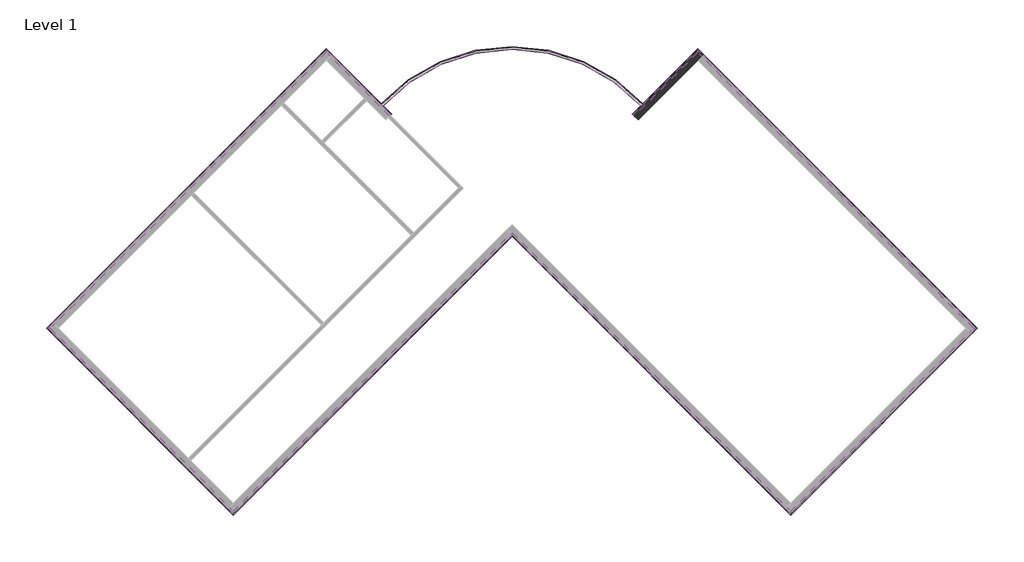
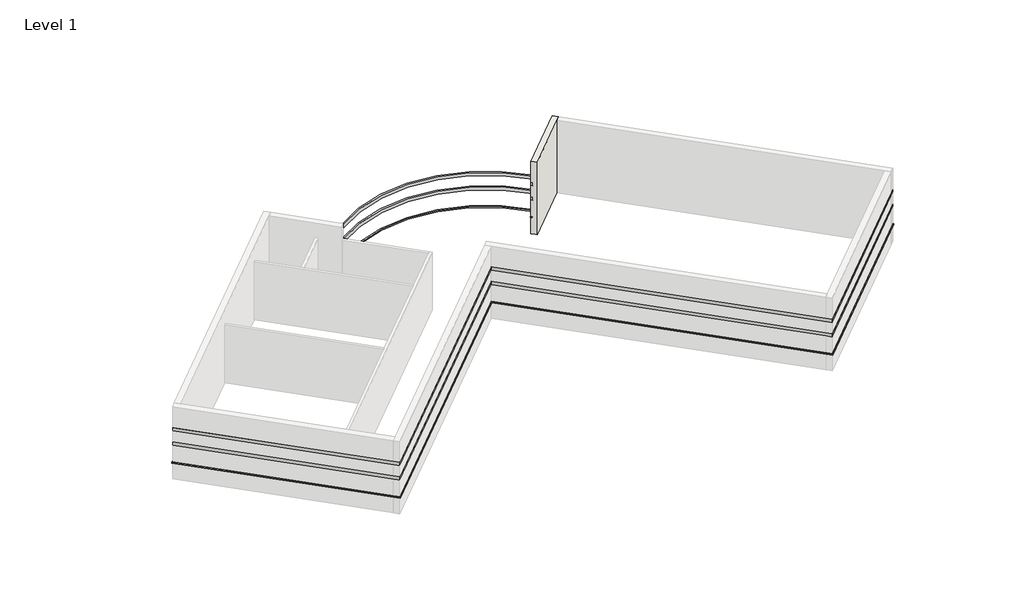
# One storey, part 2 of 2: 27 proxies, 1 wall.
"""IFC4 building model written with IfcOpenShell, lengths in millimetres."""

import ifcopenshell
import ifcopenshell.guid

model = None  # the IFC model being written
_history = None  # IfcOwnerHistory: only IFC2X3 demands one
_inside = {}  # id of a spatial element -> (the spatial element, [elements in it])
_under = {}  # id of a project, library or spatial element -> (it, [spatial elements below it])
_declared = {}  # id of a project -> (the project, [libraries it declares])
_typed = {}  # id of a type object -> (the type object, [elements of that type])
_made_of = {}  # id of a material, layer set ... -> (it, [elements and type objects made of it])


def new_model(schema):
    """Start an empty IFC model of exactly this schema.

    Asked for "IFC4X3", IfcOpenShell would pick the latest addendum, in which some entities
    have other attributes; the version numbers below select the first issue.
    IFC2X3 requires an IfcOwnerHistory on every rooted entity: one is made here for all.
    """
    global model, _history
    if schema == "IFC4X3":
        model = ifcopenshell.file(schema_version=(4, 3, 0, 0))
    else:
        model = ifcopenshell.file(schema=schema)
    _inside.clear()
    _under.clear()
    _declared.clear()
    _typed.clear()
    _made_of.clear()
    _history = None
    if model.schema == "IFC2X3":
        org = make("IfcOrganization", Name="unknown")
        user = make(
            "IfcPersonAndOrganization",
            ThePerson=make("IfcPerson", FamilyName="unknown"),
            TheOrganization=org,
        )
        app = make(
            "IfcApplication",
            ApplicationDeveloper=org,
            Version="unknown",
            ApplicationFullName="unknown",
            ApplicationIdentifier="unknown",
        )
        _history = make(
            "IfcOwnerHistory",
            OwningUser=user,
            OwningApplication=app,
            ChangeAction="ADDED",
            CreationDate=0,
        )
    return model


def make(cls, **values):
    """One entity of the class cls with the attributes given. An attribute that is None is left unset."""
    return model.create_entity(
        cls, **{name: value for name, value in values.items() if value is not None}
    )


def rooted(cls, **values):
    """An entity with a GlobalId (a new one), such as an element, a storey or a relation."""
    return make(cls, GlobalId=ifcopenshell.guid.new(), OwnerHistory=_history, **values)


def si_unit(unit_type, name, prefix=None):
    """IfcSIUnit, for example si_unit("LENGTHUNIT", "METRE", prefix="MILLI")."""
    return make("IfcSIUnit", UnitType=unit_type, Prefix=prefix, Name=name)


def assignment(units):
    """IfcUnitAssignment: the units of a project."""
    return None if units is None else make("IfcUnitAssignment", Units=units)


def point(xyz):
    """IfcCartesianPoint."""
    return None if xyz is None else make("IfcCartesianPoint", Coordinates=xyz)


def direction(xyz):
    """IfcDirection."""
    return None if xyz is None else make("IfcDirection", DirectionRatios=xyz)


def frame(location, z_axis=None, x_axis=None):
    """IfcAxis2Placement3D, a coordinate frame: its origin and axes. An axis left out is left unset."""
    return make(
        "IfcAxis2Placement3D",
        Location=point(location),
        Axis=direction(z_axis),
        RefDirection=direction(x_axis),
    )


def frame_2d(location, x_axis=None):
    """IfcAxis2Placement2D, a coordinate frame in the plane: its origin and x axis."""
    return make(
        "IfcAxis2Placement2D", Location=point(location), RefDirection=direction(x_axis)
    )


def origin():
    """The frame at (0, 0, 0) with its axes left unset."""
    return frame((0.0, 0.0, 0.0))


def place(relative_to, where):
    """IfcLocalPlacement: puts the frame where relative to a parent placement (None: the world)."""
    return make(
        "IfcLocalPlacement", PlacementRelTo=relative_to, RelativePlacement=where
    )


def context(
    kind, dimensions, precision=None, world=None, true_north=None, identifier=None
):
    """IfcGeometricRepresentationContext, for example the 3D "Model" context."""
    return make(
        "IfcGeometricRepresentationContext",
        ContextIdentifier=identifier,
        ContextType=kind,
        CoordinateSpaceDimension=dimensions,
        Precision=precision,
        WorldCoordinateSystem=world,
        TrueNorth=true_north,
    )


def project(units=None, contexts=None):
    """IfcProject with its units and contexts."""
    return rooted(
        "IfcProject",
        Name="project",
        RepresentationContexts=contexts,
        UnitsInContext=assignment(units),
    )


def spatial(cls, under=None, at=None, **own):
    """A site, building, storey or space (cls), placed at a placement, below another one or the project."""
    s = rooted(cls, ObjectPlacement=at, **own)
    if under is not None:
        _under.setdefault(under.id(), (under, []))[1].append(s)
    return s


def polyline(points):
    """IfcPolyline through the points."""
    return make("IfcPolyline", Points=[point(p) for p in points])


def circle_curve(where, radius):
    """IfcCircle in the frame where."""
    return make("IfcCircle", Position=where, Radius=radius)


def trimmed(basis, trim1, trim2, sense, master):
    """IfcTrimmedCurve: the piece of a basis curve between two trims."""
    return make(
        "IfcTrimmedCurve",
        BasisCurve=basis,
        Trim1=trim1,
        Trim2=trim2,
        SenseAgreement=sense,
        MasterRepresentation=master,
    )


def segment(curve, same_sense, transition):
    """IfcCompositeCurveSegment."""
    return make(
        "IfcCompositeCurveSegment",
        Transition=transition,
        SameSense=same_sense,
        ParentCurve=curve,
    )


def composite_curve(segments, self_intersect=None):
    """IfcCompositeCurve: segments joined end to end."""
    return make("IfcCompositeCurve", Segments=segments, SelfIntersect=self_intersect)


def outline(outer, holes=None, kind="AREA"):
    """IfcArbitraryClosedProfileDef: a profile drawn as a closed curve; with holes, ...WithVoids."""
    if holes is None:
        return make("IfcArbitraryClosedProfileDef", ProfileType=kind, OuterCurve=outer)
    return make(
        "IfcArbitraryProfileDefWithVoids",
        ProfileType=kind,
        OuterCurve=outer,
        InnerCurves=holes,
    )


def extrude(swept, where, along, depth):
    """IfcExtrudedAreaSolid: the profile swept, set in the frame where, extruded along a direction by depth."""
    return make(
        "IfcExtrudedAreaSolid",
        SweptArea=swept,
        Position=where,
        ExtrudedDirection=direction(along),
        Depth=depth,
    )


def faces_of(points, faces, orient=None, outer=None):
    """IfcFace entities. A face is a list of loops; a loop is a list of indices into points, from 0.

    orient and outer hold one flag for each loop. By default every Orientation is true, the
    first loop of a face is its IfcFaceOuterBound and the others are IfcFaceBound.
    """
    made = []
    for i, loops in enumerate(faces):
        bounds = []
        for j, loop in enumerate(loops):
            is_outer = j == 0 if outer is None else outer[i][j]
            bounds.append(
                make(
                    "IfcFaceOuterBound" if is_outer else "IfcFaceBound",
                    Bound=make("IfcPolyLoop", Polygon=[points[k] for k in loop]),
                    Orientation=True if orient is None else orient[i][j],
                )
            )
        made.append(make("IfcFace", Bounds=bounds))
    return made


def faceted_brep(points, faces, orient=None, outer=None, voids=None):
    """IfcFacetedBrep: a solid bounded by flat faces; with voids (closed shells), ...WithVoids."""
    shared = [point(p) for p in points]
    hull = make("IfcClosedShell", CfsFaces=faces_of(shared, faces, orient, outer))
    if voids is None:
        return make("IfcFacetedBrep", Outer=hull)
    return make(
        "IfcFacetedBrepWithVoids",
        Outer=hull,
        Voids=[
            make(cls, CfsFaces=faces_of(shared, fs, o, b)) for cls, fs, o, b in voids
        ],
    )


def shape(context_of_items, identifier, shape_type, items):
    """IfcShapeRepresentation: the items that make up one representation, for example the "Body"."""
    return make(
        "IfcShapeRepresentation",
        ContextOfItems=context_of_items,
        RepresentationIdentifier=identifier,
        RepresentationType=shape_type,
        Items=items,
    )


def made_of(thing, what):
    """Note that an element or type object is made of a material, layer set ...; save() writes the relation."""
    if what is not None:
        _made_of.setdefault(what.id(), (what, []))[1].append(thing)
    return thing


def element(
    cls,
    number,
    at=None,
    inside=None,
    cuts=None,
    type_object=None,
    material=None,
    context=None,
    identifier="Body",
    shape_type=None,
    held_by="IfcProductDefinitionShape",
    body=None,
    shapes=None,
    **own,
):
    """One element of the class cls, such as IfcWall. Its Tag is "e" and its number.

    at: its placement. inside: the storey or other place that contains it. cuts: it is an
    opening in that element (IfcRelVoidsElement). A single representation is given by context,
    identifier, shape_type and body (its items); several are given by shapes. held_by: the class
    of the entity that holds the representations. save() writes the other relations.
    """
    e = rooted(cls, Tag="e%d" % number, ObjectPlacement=at, **own)
    if body is not None:
        shapes = [shape(context, identifier, shape_type, body)]
    if shapes is not None:
        e.Representation = make(held_by, Representations=shapes)
    if inside is not None:
        _inside.setdefault(inside.id(), (inside, []))[1].append(e)
    if cuts is not None:
        rooted(
            "IfcRelVoidsElement", RelatingBuildingElement=cuts, RelatedOpeningElement=e
        )
    if type_object is not None:
        _typed.setdefault(type_object.id(), (type_object, []))[1].append(e)
    return made_of(e, material)


def aggregate(whole, parts):
    """IfcRelAggregates: a whole, such as a stair, and the parts it consists of."""
    return rooted("IfcRelAggregates", RelatingObject=whole, RelatedObjects=parts)


def save(model, path):
    """Write the relations noted so far, then the file.

    IfcRelAggregates (storeys below a building ...), IfcRelContainedInSpatialStructure (elements
    in a storey), IfcRelDefinesByType, IfcRelAssociatesMaterial and IfcRelDeclares: one each for
    every whole, place, type object, material and project.
    """
    for whole, parts in _under.values():
        aggregate(whole, parts)
    for where, things in _inside.values():
        rooted(
            "IfcRelContainedInSpatialStructure",
            RelatedElements=things,
            RelatingStructure=where,
        )
    for kind, things in _typed.values():
        rooted("IfcRelDefinesByType", RelatedObjects=things, RelatingType=kind)
    for what, things in _made_of.values():
        rooted("IfcRelAssociatesMaterial", RelatedObjects=things, RelatingMaterial=what)
    for by, libraries in _declared.values():
        rooted("IfcRelDeclares", RelatingContext=by, RelatedDefinitions=libraries)
    model.write(path)


def plane_surface(at):
    """IfcPlane: the flat surface through the origin of the frame at, square to its z axis."""
    return make("IfcPlane", Position=at)


def cylinder_surface(at, radius):
    """IfcCylindricalSurface: all points at the distance radius from the z axis of the frame at."""
    return make("IfcCylindricalSurface", Position=at, Radius=radius)


def revolved_surface(curve, axis_point, axis_direction):
    """IfcSurfaceOfRevolution: the curve turned about the line through axis_point along axis_direction."""
    return make(
        "IfcSurfaceOfRevolution",
        SweptCurve=make("IfcArbitraryOpenProfileDef", ProfileType="CURVE", Curve=curve),
        AxisPosition=make("IfcAxis1Placement", Location=point(axis_point), Axis=direction(axis_direction)),
    )


def advanced_brep(points, edges, surfaces, faces):
    """IfcAdvancedBrep: a solid bounded by faces that lie on surfaces and meet in shared edges.

    An edge is (start, end): straight between two places in points (the first is 0);
    or (start, end, curve); or (start, end, curve, False) where it runs against its curve.
    A face is (place in surfaces, loops), or (place, loops, False) where it looks against
    its surface's normal. A loop lists edges by number (the first is 1), with a minus sign
    where the edge is run from its end to its start. The first loop is the outer one.
    """
    corners = [point(p) for p in points]
    vertices = [make("IfcVertexPoint", VertexGeometry=c) for c in corners]
    made = []
    for start, end, *more in edges:
        made.append(
            make(
                "IfcEdgeCurve",
                EdgeStart=vertices[start],
                EdgeEnd=vertices[end],
                EdgeGeometry=more[0] if more else make("IfcPolyline", Points=[corners[start], corners[end]]),
                SameSense=more[1] if len(more) > 1 else True,
            )
        )
    hull = []
    for where, loops, *sense in faces:
        bounds = []
        for j, loop in enumerate(loops):
            ring = [make("IfcOrientedEdge", EdgeElement=made[abs(k) - 1], Orientation=k > 0) for k in loop]
            bounds.append(
                make(
                    "IfcFaceOuterBound" if j == 0 else "IfcFaceBound",
                    Bound=make("IfcEdgeLoop", EdgeList=ring),
                    Orientation=True,
                )
            )
        hull.append(make("IfcAdvancedFace", Bounds=bounds, FaceSurface=surfaces[where], SameSense=sense[0] if sense else True))
    return make("IfcAdvancedBrep", Outer=make("IfcClosedShell", CfsFaces=hull))


model = new_model("IFC4")

# Units and contexts
model_context = context("Model", 3, world=origin())
ifc_project = project(units=[si_unit("LENGTHUNIT", "METRE", prefix="MILLI")], contexts=[model_context])

# Site, building, storey
site = spatial("IfcSite", under=ifc_project)
building = spatial("IfcBuilding", under=site)
storey = spatial("IfcBuildingStorey", under=building, Name="Level 1", Elevation=0.0)

# Proxies
placement = place(None, origin())
element("IfcBuildingElementProxy", 1, Name="Wall Sweeps", at=placement, inside=storey, context=model_context, shape_type="Brep", body=[
    faceted_brep([(4452.4879241, 1846.4678711, 1085.85), (4387.3810672, 1911.574728, 1085.85), (4362.6853629, 1936.2704323, 1041.4), (4362.6853629, 1936.2704323, 1016.0), (4387.3810672, 1911.574728, 1016.0), (4452.4879241, 1846.4678711, 1016.0), (7404.7471239, 4798.7270709, 1085.85), (7404.7471239, 4798.7270709, 1016.0), (7404.7471239, 4978.3321933, 1016.0), (7404.7471239, 4978.3321933, 1041.4), (7404.7471239, 4928.9407847, 1085.85)], [[[0, 1, 2, 3, 4, 5]], [[6, 7, 8, 9, 10]], [[1, 0, 6, 10]], [[2, 1, 10, 9]], [[3, 2, 9, 8]], [[5, 4, 3, 8, 7]], [[0, 5, 7, 6]]]),
])
element("IfcBuildingElementProxy", 2, Name="Wall Sweeps", at=placement, inside=storey, context=model_context, shape_type="SweptSolid", body=[
    extrude(outline(polyline([(4452.4879241, 1846.4678711), (4387.3810672, 1911.574728), (7404.7471239, 4928.9407847), (7404.7471239, 4798.7270709), (4452.4879241, 1846.4678711)])), frame((0.0, 0.0, 2133.6), z_axis=(0.0, 0.0, 1.0), x_axis=(1.0, 0.0, 0.0)), (0.0, 0.0, 1.0), 203.2),
])
element("IfcBuildingElementProxy", 3, Name="Wall Sweeps", at=placement, inside=storey, context=model_context, shape_type="SweptSolid", body=[
    extrude(outline(polyline([(4452.4879241, 1846.4678711), (4387.3810672, 1911.574728), (7404.7471239, 4928.9407847), (7404.7471239, 4798.7270709), (4452.4879241, 1846.4678711)])), frame((0.0, 0.0, 3048.0), z_axis=(0.0, 0.0, 1.0), x_axis=(1.0, 0.0, 0.0)), (0.0, 0.0, 1.0), 203.2),
])
element("IfcBuildingElementProxy", 4, Name="Wall Sweeps", at=placement, inside=storey, context=model_context, shape_type="Brep", body=[
    faceted_brep([(7404.7471239, 4798.7270709, 1085.85), (7404.7471239, 4928.9407847, 1085.85), (7404.7471239, 4978.3321933, 1041.4), (7404.7471239, 4978.3321933, 1016.0), (7404.7471239, 4798.7270709, 1016.0), (20206.1022245, -8002.6280297, 1085.85), (20206.1022245, -8002.6280297, 1016.0), (20385.7073469, -8002.6280297, 1016.0), (20385.7073469, -8002.6280297, 1041.4), (20336.3159382, -8002.6280297, 1085.85), (7588.8423744, 4614.6318204, 1085.85), (7588.8423744, 4614.6318204, 1016.0)], [[[0, 1, 2, 3, 4]], [[5, 6, 7, 8, 9]], [[1, 0, 10, 5, 9]], [[2, 1, 9, 8]], [[3, 2, 8, 7]], [[4, 3, 7, 6, 11]], [[0, 4, 11, 6, 5, 10]]]),
])
element("IfcBuildingElementProxy", 5, Name="Wall Sweeps", at=placement, inside=storey, context=model_context, shape_type="Brep", body=[
    faceted_brep([(7404.7471239, 4928.9407847, 2336.8), (7404.7471239, 4928.9407847, 2133.6), (7404.7471239, 4798.7270709, 2133.6), (7404.7471239, 4798.7270709, 2336.8), (20336.3159382, -8002.6280297, 2336.8), (20206.1022245, -8002.6280297, 2336.8), (20206.1022245, -8002.6280297, 2133.6), (20336.3159382, -8002.6280297, 2133.6), (7653.9492313, 4679.7386773, 2336.8), (7653.9492313, 4679.7386773, 2133.6), (7588.8423744, 4614.6318204, 2133.6), (7588.8423744, 4614.6318204, 2336.8)], [[[0, 1, 2, 3]], [[4, 5, 6, 7]], [[1, 0, 8, 4, 7, 9]], [[2, 1, 9, 7, 6, 10]], [[3, 2, 10, 6, 5, 11]], [[0, 3, 11, 5, 4, 8]]]),
])
element("IfcBuildingElementProxy", 6, Name="Wall Sweeps", at=placement, inside=storey, context=model_context, shape_type="Brep", body=[
    faceted_brep([(7404.7471239, 4928.9407847, 3251.2), (7404.7471239, 4928.9407847, 3048.0), (7404.7471239, 4798.7270709, 3048.0), (7404.7471239, 4798.7270709, 3251.2), (20336.3159382, -8002.6280297, 3251.2), (20206.1022245, -8002.6280297, 3251.2), (20206.1022245, -8002.6280297, 3048.0), (20336.3159382, -8002.6280297, 3048.0), (7653.9492313, 4679.7386773, 3251.2), (7653.9492313, 4679.7386773, 3048.0), (7588.8423744, 4614.6318204, 3048.0), (7588.8423744, 4614.6318204, 3251.2)], [[[0, 1, 2, 3]], [[4, 5, 6, 7]], [[1, 0, 8, 4, 7, 9]], [[2, 1, 9, 7, 6, 10]], [[3, 2, 10, 6, 5, 11]], [[0, 3, 11, 5, 4, 8]]]),
])
element("IfcBuildingElementProxy", 7, Name="Wall Sweeps", at=placement, inside=storey, context=model_context, shape_type="Brep", body=[
    faceted_brep([(20206.1022245, -8002.6280297, 1085.85), (20336.3159382, -8002.6280297, 1085.85), (20385.7073469, -8002.6280297, 1041.4), (20385.7073469, -8002.6280297, 1016.0), (20206.1022245, -8002.6280297, 1016.0), (11715.270062, -16493.4601921, 1085.85), (11715.270062, -16493.4601921, 1016.0), (11715.270062, -16673.0653146, 1016.0), (11715.270062, -16673.0653146, 1041.4), (11715.270062, -16623.6739059, 1085.85), (20022.006974, -8186.7232802, 1085.85), (20022.006974, -8186.7232802, 1016.0)], [[[0, 1, 2, 3, 4]], [[5, 6, 7, 8, 9]], [[1, 0, 10, 5, 9]], [[2, 1, 9, 8]], [[3, 2, 8, 7]], [[4, 3, 7, 6, 11]], [[0, 4, 11, 6, 5, 10]]]),
])
element("IfcBuildingElementProxy", 8, Name="Wall Sweeps", at=placement, inside=storey, context=model_context, shape_type="Brep", body=[
    faceted_brep([(20336.3159382, -8002.6280297, 2336.8), (20336.3159382, -8002.6280297, 2133.6), (20206.1022245, -8002.6280297, 2133.6), (20206.1022245, -8002.6280297, 2336.8), (11715.270062, -16623.6739059, 2336.8), (11715.270062, -16493.4601921, 2336.8), (11715.270062, -16493.4601921, 2133.6), (11715.270062, -16623.6739059, 2133.6), (20087.1138309, -8251.830137, 2336.8), (20087.1138309, -8251.830137, 2133.6), (20022.006974, -8186.7232802, 2133.6), (20022.006974, -8186.7232802, 2336.8)], [[[0, 1, 2, 3]], [[4, 5, 6, 7]], [[1, 0, 8, 4, 7, 9]], [[2, 1, 9, 7, 6, 10]], [[3, 2, 10, 6, 5, 11]], [[0, 3, 11, 5, 4, 8]]]),
])
element("IfcBuildingElementProxy", 9, Name="Wall Sweeps", at=placement, inside=storey, context=model_context, shape_type="Brep", body=[
    faceted_brep([(20336.3159382, -8002.6280297, 3251.2), (20336.3159382, -8002.6280297, 3048.0), (20206.1022245, -8002.6280297, 3048.0), (20206.1022245, -8002.6280297, 3251.2), (11715.270062, -16623.6739059, 3251.2), (11715.270062, -16493.4601921, 3251.2), (11715.270062, -16493.4601921, 3048.0), (11715.270062, -16623.6739059, 3048.0), (20087.1138309, -8251.830137, 3251.2), (20087.1138309, -8251.830137, 3048.0), (20022.006974, -8186.7232802, 3048.0), (20022.006974, -8186.7232802, 3251.2)], [[[0, 1, 2, 3]], [[4, 5, 6, 7]], [[1, 0, 8, 4, 7, 9]], [[2, 1, 9, 7, 6, 10]], [[3, 2, 10, 6, 5, 11]], [[0, 3, 11, 5, 4, 8]]]),
])
element("IfcBuildingElementProxy", 10, Name="Wall Sweeps", at=placement, inside=storey, context=model_context, shape_type="Brep", body=[
    faceted_brep([(11715.270062, -16493.4601921, 1085.85), (11715.270062, -16623.6739059, 1085.85), (11715.270062, -16673.0653146, 1041.4), (11715.270062, -16673.0653146, 1016.0), (11715.270062, -16493.4601921, 1016.0), (-1216.2987523, -3561.8913778, 1085.85), (-1216.2987523, -3561.8913778, 1016.0), (-1216.2987523, -3741.4965002, 1016.0), (-1216.2987523, -3741.4965002, 1041.4), (-1216.2987523, -3692.1050916, 1085.85), (11531.1748115, -16309.3649417, 1085.85), (11531.1748115, -16309.3649417, 1016.0)], [[[0, 1, 2, 3, 4]], [[5, 6, 7, 8, 9]], [[1, 0, 10, 5, 9]], [[2, 1, 9, 8]], [[3, 2, 8, 7]], [[4, 3, 7, 6, 11]], [[0, 4, 11, 6, 5, 10]]]),
])
element("IfcBuildingElementProxy", 11, Name="Wall Sweeps", at=placement, inside=storey, context=model_context, shape_type="Brep", body=[
    faceted_brep([(11715.270062, -16623.6739059, 2336.8), (11715.270062, -16623.6739059, 2133.6), (11715.270062, -16493.4601921, 2133.6), (11715.270062, -16493.4601921, 2336.8), (-1216.2987523, -3692.1050916, 2336.8), (-1216.2987523, -3561.8913778, 2336.8), (-1216.2987523, -3561.8913778, 2133.6), (-1216.2987523, -3692.1050916, 2133.6), (11466.0679546, -16374.4717985, 2336.8), (11466.0679546, -16374.4717985, 2133.6), (11531.1748115, -16309.3649417, 2133.6), (11531.1748115, -16309.3649417, 2336.8)], [[[0, 1, 2, 3]], [[4, 5, 6, 7]], [[1, 0, 8, 4, 7, 9]], [[2, 1, 9, 7, 6, 10]], [[3, 2, 10, 6, 5, 11]], [[0, 3, 11, 5, 4, 8]]]),
])
element("IfcBuildingElementProxy", 12, Name="Wall Sweeps", at=placement, inside=storey, context=model_context, shape_type="Brep", body=[
    faceted_brep([(11715.270062, -16623.6739059, 3251.2), (11715.270062, -16623.6739059, 3048.0), (11715.270062, -16493.4601921, 3048.0), (11715.270062, -16493.4601921, 3251.2), (-1216.2987523, -3692.1050916, 3251.2), (-1216.2987523, -3561.8913778, 3251.2), (-1216.2987523, -3561.8913778, 3048.0), (-1216.2987523, -3692.1050916, 3048.0), (11466.0679546, -16374.4717985, 3251.2), (11466.0679546, -16374.4717985, 3048.0), (11531.1748115, -16309.3649417, 3048.0), (11531.1748115, -16309.3649417, 3251.2)], [[[0, 1, 2, 3]], [[4, 5, 6, 7]], [[1, 0, 8, 4, 7, 9]], [[2, 1, 9, 7, 6, 10]], [[3, 2, 10, 6, 5, 11]], [[0, 3, 11, 5, 4, 8]]]),
])
element("IfcBuildingElementProxy", 13, Name="Wall Sweeps", at=placement, inside=storey, context=model_context, shape_type="Brep", body=[
    faceted_brep([(-1216.2987523, -3561.8913778, 1085.85), (-1216.2987523, -3692.1050916, 1085.85), (-1216.2987523, -3741.4965002, 1041.4), (-1216.2987523, -3741.4965002, 1016.0), (-1216.2987523, -3561.8913778, 1016.0), (-14147.8675667, -16493.4601921, 1085.85), (-14147.8675667, -16493.4601921, 1016.0), (-14147.8675667, -16673.0653146, 1016.0), (-14147.8675667, -16673.0653146, 1041.4), (-14147.8675667, -16623.6739059, 1085.85), (-1281.4056092, -3626.9982347, 1085.85), (-1281.4056092, -3626.9982347, 1016.0)], [[[0, 1, 2, 3, 4]], [[5, 6, 7, 8, 9]], [[1, 0, 10, 5, 9]], [[2, 1, 9, 8]], [[3, 2, 8, 7]], [[4, 3, 7, 6, 11]], [[0, 4, 11, 6, 5, 10]]]),
])
element("IfcBuildingElementProxy", 14, Name="Wall Sweeps", at=placement, inside=storey, context=model_context, shape_type="Brep", body=[
    faceted_brep([(-1216.2987523, -3692.1050916, 2336.8), (-1216.2987523, -3692.1050916, 2133.6), (-1216.2987523, -3561.8913778, 2133.6), (-1216.2987523, -3561.8913778, 2336.8), (-14147.8675667, -16623.6739059, 2336.8), (-14147.8675667, -16493.4601921, 2336.8), (-14147.8675667, -16493.4601921, 2133.6), (-14147.8675667, -16623.6739059, 2133.6), (-1281.4056092, -3626.9982347, 2133.6), (-1281.4056092, -3626.9982347, 2336.8)], [[[0, 1, 2, 3]], [[4, 5, 6, 7]], [[1, 0, 4, 7]], [[2, 1, 7, 6, 8]], [[3, 2, 8, 6, 5, 9]], [[0, 3, 9, 5, 4]]]),
])
element("IfcBuildingElementProxy", 15, Name="Wall Sweeps", at=placement, inside=storey, context=model_context, shape_type="Brep", body=[
    faceted_brep([(-1216.2987523, -3692.1050916, 3251.2), (-1216.2987523, -3692.1050916, 3048.0), (-1216.2987523, -3561.8913778, 3048.0), (-1216.2987523, -3561.8913778, 3251.2), (-14147.8675667, -16623.6739059, 3251.2), (-14147.8675667, -16493.4601921, 3251.2), (-14147.8675667, -16493.4601921, 3048.0), (-14147.8675667, -16623.6739059, 3048.0), (-1281.4056092, -3626.9982347, 3048.0), (-1281.4056092, -3626.9982347, 3251.2)], [[[0, 1, 2, 3]], [[4, 5, 6, 7]], [[1, 0, 4, 7]], [[2, 1, 7, 6, 8]], [[3, 2, 8, 6, 5, 9]], [[0, 3, 9, 5, 4]]]),
])
element("IfcBuildingElementProxy", 16, Name="Wall Sweeps", at=placement, inside=storey, context=model_context, shape_type="Brep", body=[
    faceted_brep([(-14147.8675667, -16493.4601921, 1085.85), (-14147.8675667, -16623.6739059, 1085.85), (-14147.8675667, -16673.0653146, 1041.4), (-14147.8675667, -16673.0653146, 1016.0), (-14147.8675667, -16493.4601921, 1016.0), (-22638.6997291, -8002.6280297, 1085.85), (-22638.6997291, -8002.6280297, 1016.0), (-22818.3048516, -8002.6280297, 1016.0), (-22818.3048516, -8002.6280297, 1041.4), (-22768.9134429, -8002.6280297, 1085.85), (-14331.9628172, -16309.3649417, 1085.85), (-14331.9628172, -16309.3649417, 1016.0)], [[[0, 1, 2, 3, 4]], [[5, 6, 7, 8, 9]], [[1, 0, 10, 5, 9]], [[2, 1, 9, 8]], [[3, 2, 8, 7]], [[4, 3, 7, 6, 11]], [[0, 4, 11, 6, 5, 10]]]),
])
element("IfcBuildingElementProxy", 17, Name="Wall Sweeps", at=placement, inside=storey, context=model_context, shape_type="Brep", body=[
    faceted_brep([(-14147.8675667, -16623.6739059, 2336.8), (-14147.8675667, -16623.6739059, 2133.6), (-14147.8675667, -16493.4601921, 2133.6), (-14147.8675667, -16493.4601921, 2336.8), (-22768.9134429, -8002.6280297, 2336.8), (-22638.6997291, -8002.6280297, 2336.8), (-22638.6997291, -8002.6280297, 2133.6), (-22768.9134429, -8002.6280297, 2133.6), (-14397.069674, -16374.4717985, 2336.8), (-14397.069674, -16374.4717985, 2133.6), (-14331.9628172, -16309.3649417, 2133.6), (-14331.9628172, -16309.3649417, 2336.8)], [[[0, 1, 2, 3]], [[4, 5, 6, 7]], [[1, 0, 8, 4, 7, 9]], [[2, 1, 9, 7, 6, 10]], [[3, 2, 10, 6, 5, 11]], [[0, 3, 11, 5, 4, 8]]]),
])
element("IfcBuildingElementProxy", 18, Name="Wall Sweeps", at=placement, inside=storey, context=model_context, shape_type="Brep", body=[
    faceted_brep([(-14147.8675667, -16623.6739059, 3251.2), (-14147.8675667, -16623.6739059, 3048.0), (-14147.8675667, -16493.4601921, 3048.0), (-14147.8675667, -16493.4601921, 3251.2), (-22768.9134429, -8002.6280297, 3251.2), (-22638.6997291, -8002.6280297, 3251.2), (-22638.6997291, -8002.6280297, 3048.0), (-22768.9134429, -8002.6280297, 3048.0), (-14397.069674, -16374.4717985, 3251.2), (-14397.069674, -16374.4717985, 3048.0), (-14331.9628172, -16309.3649417, 3048.0), (-14331.9628172, -16309.3649417, 3251.2)], [[[0, 1, 2, 3]], [[4, 5, 6, 7]], [[1, 0, 8, 4, 7, 9]], [[2, 1, 9, 7, 6, 10]], [[3, 2, 10, 6, 5, 11]], [[0, 3, 11, 5, 4, 8]]]),
])
element("IfcBuildingElementProxy", 19, Name="Wall Sweeps", at=placement, inside=storey, context=model_context, shape_type="Brep", body=[
    faceted_brep([(-22638.6997291, -8002.6280297, 1085.85), (-22768.9134429, -8002.6280297, 1085.85), (-22818.3048516, -8002.6280297, 1041.4), (-22818.3048516, -8002.6280297, 1016.0), (-22638.6997291, -8002.6280297, 1016.0), (-9837.3446286, 4798.7270709, 1085.85), (-9837.3446286, 4798.7270709, 1016.0), (-9837.3446286, 4978.3321933, 1016.0), (-9837.3446286, 4978.3321933, 1041.4), (-9837.3446286, 4928.9407847, 1085.85), (-22454.6044787, -7818.5327792, 1085.85), (-22454.6044787, -7818.5327792, 1016.0)], [[[0, 1, 2, 3, 4]], [[5, 6, 7, 8, 9]], [[1, 0, 10, 5, 9]], [[2, 1, 9, 8]], [[3, 2, 8, 7]], [[4, 3, 7, 6, 11]], [[0, 4, 11, 6, 5, 10]]]),
])
element("IfcBuildingElementProxy", 20, Name="Wall Sweeps", at=placement, inside=storey, context=model_context, shape_type="Brep", body=[
    faceted_brep([(-22768.9134429, -8002.6280297, 2336.8), (-22768.9134429, -8002.6280297, 2133.6), (-22638.6997291, -8002.6280297, 2133.6), (-22638.6997291, -8002.6280297, 2336.8), (-9837.3446286, 4928.9407847, 2336.8), (-9837.3446286, 4798.7270709, 2336.8), (-9837.3446286, 4798.7270709, 2133.6), (-9837.3446286, 4928.9407847, 2133.6), (-22519.7113355, -7753.4259223, 2336.8), (-22519.7113355, -7753.4259223, 2133.6), (-22454.6044787, -7818.5327792, 2133.6), (-22454.6044787, -7818.5327792, 2336.8)], [[[0, 1, 2, 3]], [[4, 5, 6, 7]], [[1, 0, 8, 4, 7, 9]], [[2, 1, 9, 7, 6, 10]], [[3, 2, 10, 6, 5, 11]], [[0, 3, 11, 5, 4, 8]]]),
])
element("IfcBuildingElementProxy", 21, Name="Wall Sweeps", at=placement, inside=storey, context=model_context, shape_type="Brep", body=[
    faceted_brep([(-22768.9134429, -8002.6280297, 3251.2), (-22768.9134429, -8002.6280297, 3048.0), (-22638.6997291, -8002.6280297, 3048.0), (-22638.6997291, -8002.6280297, 3251.2), (-9837.3446286, 4928.9407847, 3251.2), (-9837.3446286, 4798.7270709, 3251.2), (-9837.3446286, 4798.7270709, 3048.0), (-9837.3446286, 4928.9407847, 3048.0), (-22519.7113355, -7753.4259223, 3251.2), (-22519.7113355, -7753.4259223, 3048.0), (-22454.6044787, -7818.5327792, 3048.0), (-22454.6044787, -7818.5327792, 3251.2)], [[[0, 1, 2, 3]], [[4, 5, 6, 7]], [[1, 0, 8, 4, 7, 9]], [[2, 1, 9, 7, 6, 10]], [[3, 2, 10, 6, 5, 11]], [[0, 3, 11, 5, 4, 8]]]),
])
element("IfcBuildingElementProxy", 22, Name="Wall Sweeps", at=placement, inside=storey, context=model_context, shape_type="Brep", body=[
    faceted_brep([(-9837.3446286, 4798.7270709, 1085.85), (-9837.3446286, 4928.9407847, 1085.85), (-9837.3446286, 4978.3321933, 1041.4), (-9837.3446286, 4978.3321933, 1016.0), (-9837.3446286, 4798.7270709, 1016.0), (-6885.0854288, 1846.4678711, 1085.85), (-6885.0854288, 1846.4678711, 1016.0), (-6819.9785719, 1911.574728, 1016.0), (-6795.2828675, 1936.2704323, 1016.0), (-6795.2828675, 1936.2704323, 1041.4), (-6819.9785719, 1911.574728, 1085.85), (-9653.2493781, 4614.6318204, 1085.85), (-9653.2493781, 4614.6318204, 1016.0)], [[[0, 1, 2, 3, 4]], [[5, 6, 7, 8, 9, 10]], [[1, 0, 11, 5, 10]], [[2, 1, 10, 9]], [[3, 2, 9, 8]], [[4, 3, 8, 7, 6, 12]], [[0, 4, 12, 6, 5, 11]]]),
])
element("IfcBuildingElementProxy", 23, Name="Wall Sweeps", at=placement, inside=storey, context=model_context, shape_type="Brep", body=[
    faceted_brep([(-9837.3446286, 4928.9407847, 2336.8), (-9837.3446286, 4928.9407847, 2133.6), (-9837.3446286, 4798.7270709, 2133.6), (-9837.3446286, 4798.7270709, 2336.8), (-6819.9785719, 1911.574728, 2336.8), (-6885.0854288, 1846.4678711, 2336.8), (-6885.0854288, 1846.4678711, 2133.6), (-6819.9785719, 1911.574728, 2133.6), (-9588.1425212, 4679.7386773, 2336.8), (-9588.1425212, 4679.7386773, 2133.6), (-9653.2493781, 4614.6318204, 2133.6), (-9653.2493781, 4614.6318204, 2336.8)], [[[0, 1, 2, 3]], [[4, 5, 6, 7]], [[1, 0, 8, 4, 7, 9]], [[2, 1, 9, 7, 6, 10]], [[3, 2, 10, 6, 5, 11]], [[0, 3, 11, 5, 4, 8]]]),
])
element("IfcBuildingElementProxy", 24, Name="Wall Sweeps", at=placement, inside=storey, context=model_context, shape_type="Brep", body=[
    faceted_brep([(-9837.3446286, 4928.9407847, 3251.2), (-9837.3446286, 4928.9407847, 3048.0), (-9837.3446286, 4798.7270709, 3048.0), (-9837.3446286, 4798.7270709, 3251.2), (-6819.9785719, 1911.574728, 3251.2), (-6885.0854288, 1846.4678711, 3251.2), (-6885.0854288, 1846.4678711, 3048.0), (-6819.9785719, 1911.574728, 3048.0), (-9588.1425212, 4679.7386773, 3251.2), (-9588.1425212, 4679.7386773, 3048.0), (-9653.2493781, 4614.6318204, 3048.0), (-9653.2493781, 4614.6318204, 3251.2)], [[[0, 1, 2, 3]], [[4, 5, 6, 7]], [[1, 0, 8, 4, 7, 9]], [[2, 1, 9, 7, 6, 10]], [[3, 2, 10, 6, 5, 11]], [[0, 3, 11, 5, 4, 8]]]),
])
element("IfcBuildingElementProxy", 25, Name="Wall Sweeps", at=placement, inside=storey, context=model_context, shape_type="AdvancedBrep", body=[
    advanced_brep(
    [(-7211.5331822, 2308.70562, 1085.85), (-7279.3684528, 2370.9646089, 1085.85), (-7305.0990726, 2394.5800874, 1041.4), (-7305.0990726, 2394.5800874, 1016.0), (-7279.3684528, 2370.9646089, 1016.0), (-7211.5331822, 2308.70562, 1016.0), (4778.9356775, 2308.70562, 1085.85), (4778.9356775, 2308.70562, 1016.0), (4846.7709481, 2370.9646089, 1016.0), (4872.501568, 2394.5800874, 1016.0), (4872.501568, 2394.5800874, 1041.4), (4846.7709481, 2370.9646089, 1085.85)],
    [
        (0, 1),
        (1, 2),
        (2, 3),
        (3, 4),
        (4, 5),
        (5, 0),
        (6, 7),
        (7, 8),
        (8, 9),
        (9, 10),
        (10, 11),
        (11, 6),
        (11, 1, circle_curve(frame((-1216.2987523, -3193.7008768, 1085.85), z_axis=(0.0, 0.0, 1.0), x_axis=(-0.7367392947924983, 0.6761769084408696, 0.0)), 8229.6)),
        (0, 6, circle_curve(frame((-1216.2987523, -3193.7008768, 1085.85), z_axis=(0.0, 0.0, -1.0), x_axis=(-0.7367392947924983, 0.6761769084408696, 0.0)), 8137.525)),
        (10, 2, circle_curve(frame((-1216.2987523, -3193.7008768, 1041.4), z_axis=(0.0, 0.0, 1.0), x_axis=(-0.7367392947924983, 0.6761769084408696, 0.0)), 8264.525)),
        (9, 3, circle_curve(frame((-1216.2987523, -3193.7008768, 1016.0), z_axis=(0.0, 0.0, 1.0), x_axis=(-0.7367392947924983, 0.6761769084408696, 0.0)), 8264.525)),
        (7, 5, circle_curve(frame((-1216.2987523, -3193.7008768, 1016.0), z_axis=(0.0, 0.0, 1.0), x_axis=(-0.7367392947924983, 0.6761769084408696, 0.0)), 8137.525)),
    ],
    [
        plane_surface(frame((-1216.2987523, -3193.7008768, 1016.0), z_axis=(-0.6761769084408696, -0.7367392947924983, 0.0), x_axis=(-0.7367392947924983, 0.6761769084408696, 0.0))),
        plane_surface(frame((-1216.2987523, -3193.7008768, 1016.0), z_axis=(0.676176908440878, -0.7367392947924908, 0.0), x_axis=(0.7367392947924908, 0.676176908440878, 0.0))),
        plane_surface(frame((-1216.2987523, -3193.7008768, 1085.85), z_axis=(0.0, 0.0, 1.0), x_axis=(-0.7367392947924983, 0.6761769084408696, 0.0))),
        revolved_surface(polyline([(-7279.3684528, 2370.9646089, 1085.85), (-7305.0990726, 2394.5800874, 1041.4)]), (-1216.2987523, -3193.7008768, 1016.0), (0.0, 0.0, -1.0)),
        cylinder_surface(frame((-1216.2987523, -3193.7008768, 1016.0), z_axis=(0.0, 0.0, -1.0), x_axis=(-0.7367392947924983, 0.6761769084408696, 0.0)), 8264.525),
        plane_surface(frame((-1216.2987523, -3193.7008768, 1016.0), z_axis=(0.0, 0.0, -1.0), x_axis=(-0.7367392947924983, 0.6761769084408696, 0.0))),
        revolved_surface(polyline([(-7211.533182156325, 2308.705620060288, 1016.0), (-7211.533182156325, 2308.705620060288, 1085.85)]), (-1216.2987523, -3193.7008768, 1016.0), (0.0, 0.0, -1.0)),
    ],
    [
        (0, [[1, 2, 3, 4, 5, 6]]),
        (1, [[7, 8, 9, 10, 11, 12]]),
        (2, [[13, -1, 14, -12]]),
        (3, [[15, -2, -13, -11]]),
        (4, [[16, -3, -15, -10]]),
        (5, [[17, -5, -4, -16, -9, -8]]),
        (6, [[-14, -6, -17, -7]]),
    ],
),
])
element("IfcBuildingElementProxy", 26, Name="Wall Sweeps", at=placement, inside=storey, context=model_context, shape_type="SweptSolid", body=[
    extrude(outline(composite_curve([segment(trimmed(circle_curve(frame_2d((-1216.2987523, -3193.7008768)), 8137.525), [point((4778.9356775, 2308.70562))], [point((-7211.5331822, 2308.70562))], True, "CARTESIAN"), True, "CONTINUOUS"), segment(polyline([(-7211.5331822, 2308.70562), (-7279.3684528, 2370.9646089)]), True, "CONTINUOUS"), segment(trimmed(circle_curve(frame_2d((-1216.2987523, -3193.7008768)), 8229.6), [point((-7279.3684528, 2370.9646089))], [point((4846.7709481, 2370.9646089))], False, "CARTESIAN"), True, "CONTINUOUS"), segment(polyline([(4846.7709481, 2370.9646089), (4778.9356775, 2308.70562)]), True, "CONTINUOUS")], self_intersect=False)), frame((0.0, 0.0, 2133.6), z_axis=(0.0, 0.0, 1.0), x_axis=(1.0, 0.0, 0.0)), (0.0, 0.0, 1.0), 203.2),
])
element("IfcBuildingElementProxy", 27, Name="Wall Sweeps", at=placement, inside=storey, context=model_context, shape_type="SweptSolid", body=[
    extrude(outline(composite_curve([segment(trimmed(circle_curve(frame_2d((-1216.2987523, -3193.7008768)), 8137.525), [point((4778.9356775, 2308.70562))], [point((-7211.5331822, 2308.70562))], True, "CARTESIAN"), True, "CONTINUOUS"), segment(polyline([(-7211.5331822, 2308.70562), (-7279.3684528, 2370.9646089)]), True, "CONTINUOUS"), segment(trimmed(circle_curve(frame_2d((-1216.2987523, -3193.7008768)), 8229.6), [point((-7279.3684528, 2370.9646089))], [point((4846.7709481, 2370.9646089))], False, "CARTESIAN"), True, "CONTINUOUS"), segment(polyline([(4846.7709481, 2370.9646089), (4778.9356775, 2308.70562)]), True, "CONTINUOUS")], self_intersect=False)), frame((0.0, 0.0, 3048.0), z_axis=(0.0, 0.0, 1.0), x_axis=(1.0, 0.0, 0.0)), (0.0, 0.0, 1.0), 203.2),
])

# Wall
element("IfcWall", 28, ObjectType="Exterior - Split Face and CMU on Mtl. Stud", at=placement, inside=storey, context=model_context, shape_type="Brep", body=[
    faceted_brep([(4636.5831746, 1662.3726206, 0.0), (7404.7471239, 4430.5365699, 0.0), (7653.9492313, 4679.7386773, 0.0), (7653.9492313, 4679.7386773, 1016.0), (7588.8423744, 4614.6318204, 1016.0), (7588.8423744, 4614.6318204, 1085.85), (7653.9492313, 4679.7386773, 1085.85), (7653.9492313, 4679.7386773, 2133.6), (7588.8423744, 4614.6318204, 2133.6), (7588.8423744, 4614.6318204, 2336.8), (7653.9492313, 4679.7386773, 2336.8), (7653.9492313, 4679.7386773, 3048.0), (7588.8423744, 4614.6318204, 3048.0), (7588.8423744, 4614.6318204, 3251.2), (7653.9492313, 4679.7386773, 3251.2), (7653.9492313, 4679.7386773, 4572.0), (7404.7471239, 4430.5365699, 4572.0), (4636.5831746, 1662.3726206, 4572.0), (7404.7471239, 4928.9407847, 1085.85), (4387.3810672, 1911.574728, 1085.85), (4387.3810672, 1911.574728, 2133.6), (7404.7471239, 4928.9407847, 2133.6), (7404.7471239, 4928.9407847, 2336.8), (4387.3810672, 1911.574728, 2336.8), (4387.3810672, 1911.574728, 3048.0), (7404.7471239, 4928.9407847, 3048.0), (4387.3810672, 1911.574728, 4572.0), (4597.3297675, 2121.5234283, 4572.0), (4846.7709481, 2370.9646089, 4572.0), (7404.7471239, 4928.9407847, 4572.0), (7404.7471239, 4928.9407847, 3251.2), (4387.3810672, 1911.574728, 3251.2), (7404.7471239, 4928.9407847, 0.0), (4846.7709481, 2370.9646089, 0.0), (4597.3297675, 2121.5234283, 0.0), (4387.3810672, 1911.574728, 0.0), (4387.3810672, 1911.574728, 1016.0), (7404.7471239, 4928.9407847, 1016.0), (4452.4879241, 1846.4678711, 3251.2), (4452.4879241, 1846.4678711, 3048.0), (4452.4879241, 1846.4678711, 2336.8), (4452.4879241, 1846.4678711, 2133.6), (4452.4879241, 1846.4678711, 1085.85), (4452.4879241, 1846.4678711, 1016.0), (4452.4879241, 1846.4678711, 0.0), (7469.8539808, 4863.8339278, 0.0), (7404.7471239, 4798.7270709, 1085.85), (7404.7471239, 4798.7270709, 1016.0), (7404.7471239, 4798.7270709, 2133.6), (7404.7471239, 4798.7270709, 2336.8), (7404.7471239, 4798.7270709, 3048.0), (7404.7471239, 4798.7270709, 3251.2)], [[[0, 1, 2, 3, 4, 5, 6, 7, 8, 9, 10, 11, 12, 13, 14, 15, 16, 17]], [[18, 19, 20, 21]], [[22, 23, 24, 25]], [[26, 27, 28, 29, 30, 31]], [[32, 33, 34, 35, 36, 37]], [[17, 16, 15, 29, 28, 27, 26]], [[0, 17, 26, 31, 38, 39, 24, 23, 40, 41, 20, 19, 42, 43, 36, 35, 44]], [[2, 1, 0, 44, 45]], [[44, 35, 34, 33, 32, 45]], [[46, 42, 19, 18, 6, 5]], [[43, 47, 4, 3, 37, 36]], [[42, 46, 47, 43]], [[41, 48, 8, 7, 21, 20]], [[48, 41, 40, 49]], [[49, 40, 23, 22, 10, 9]], [[39, 50, 12, 11, 25, 24]], [[50, 39, 38, 51]], [[51, 38, 31, 30, 14, 13]], [[29, 15, 14, 30]], [[2, 45, 32, 37, 3]], [[6, 18, 21, 7]], [[10, 22, 25, 11]], [[47, 46, 5, 4]], [[48, 49, 9, 8]], [[50, 51, 13, 12]]]),
])

save(model, "model.ifc")
